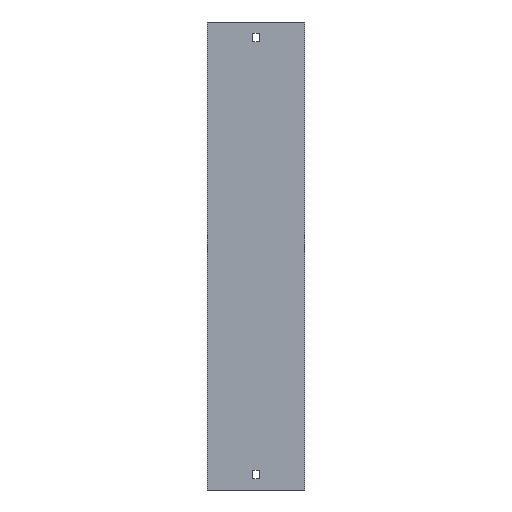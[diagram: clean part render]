
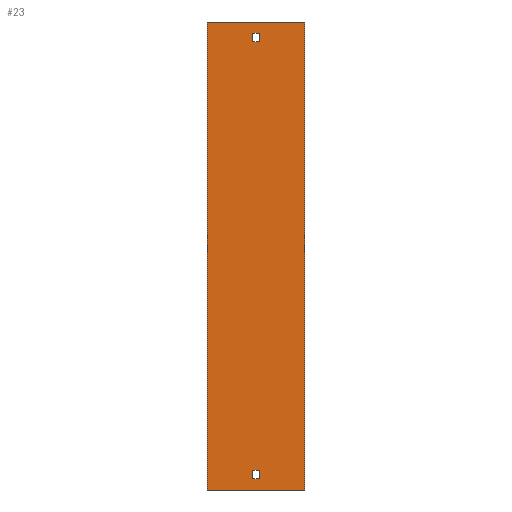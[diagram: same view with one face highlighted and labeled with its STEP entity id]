
A CAD part, front view. The second image highlights one B-rep face of the part: STEP entity #23.
In plain terms, the highlighted planar face has unit normal (0, -1, 0).
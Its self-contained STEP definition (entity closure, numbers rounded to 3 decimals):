
#23 = ADVANCED_FACE ( 'NONE', ( #829, #915, #1016 ), #74, .F. ) ;
#26 = VECTOR ( 'NONE', #755, 1000. ) ;
#48 = VECTOR ( 'NONE', #626, 1000. ) ;
#50 = VECTOR ( 'NONE', #726, 1000. ) ;
#74 = PLANE ( 'NONE',  #1024 ) ;
#86 = ORIENTED_EDGE ( 'NONE', *, *, #874, .F. ) ;
#91 = ORIENTED_EDGE ( 'NONE', *, *, #492, .F. ) ;
#93 = LINE ( 'NONE', #260, #445 ) ;
#99 = DIRECTION ( 'NONE',  ( 1., 0., 0. ) ) ;
#101 = ORIENTED_EDGE ( 'NONE', *, *, #318, .F. ) ;
#113 = CARTESIAN_POINT ( 'NONE',  ( -52., 0., 250. ) ) ;
#129 = CARTESIAN_POINT ( 'NONE',  ( 3.25, 0., 229. ) ) ;
#143 = VECTOR ( 'NONE', #712, 1000. ) ;
#145 = ORIENTED_EDGE ( 'NONE', *, *, #369, .F. ) ;
#156 = CARTESIAN_POINT ( 'NONE',  ( 52., 0., 250. ) ) ;
#163 = CARTESIAN_POINT ( 'NONE',  ( -52., 0., -250. ) ) ;
#186 = LINE ( 'NONE', #514, #395 ) ;
#192 = LINE ( 'NONE', #770, #538 ) ;
#213 = VERTEX_POINT ( 'NONE', #982 ) ;
#222 = LINE ( 'NONE', #1002, #935 ) ;
#246 = VECTOR ( 'NONE', #436, 1000. ) ;
#254 = VERTEX_POINT ( 'NONE', #725 ) ;
#260 = CARTESIAN_POINT ( 'NONE',  ( 3.25, 0., 238. ) ) ;
#262 = CARTESIAN_POINT ( 'NONE',  ( -3.25, 0., -229. ) ) ;
#270 = VERTEX_POINT ( 'NONE', #129 ) ;
#277 = CARTESIAN_POINT ( 'NONE',  ( -3.25, 0., 238. ) ) ;
#318 = EDGE_CURVE ( 'NONE', #1113, #1114, #1058, .T. ) ;
#322 = ORIENTED_EDGE ( 'NONE', *, *, #441, .T. ) ;
#325 = CARTESIAN_POINT ( 'NONE',  ( -52., 0., -250. ) ) ;
#337 = LINE ( 'NONE', #865, #246 ) ;
#343 = CARTESIAN_POINT ( 'NONE',  ( 52., 0., 250. ) ) ;
#352 = CARTESIAN_POINT ( 'NONE',  ( 3.25, 0., -238. ) ) ;
#369 = EDGE_CURVE ( 'NONE', #989, #1113, #490, .T. ) ;
#380 = CARTESIAN_POINT ( 'NONE',  ( 3.25, 0., 238. ) ) ;
#391 = LINE ( 'NONE', #471, #906 ) ;
#395 = VECTOR ( 'NONE', #99, 1000. ) ;
#400 = DIRECTION ( 'NONE',  ( 0., 0., 1. ) ) ;
#401 = CARTESIAN_POINT ( 'NONE',  ( -3.25, 0., 229. ) ) ;
#404 = EDGE_CURVE ( 'NONE', #254, #751, #222, .T. ) ;
#407 = ORIENTED_EDGE ( 'NONE', *, *, #596, .T. ) ;
#420 = VERTEX_POINT ( 'NONE', #156 ) ;
#431 = ORIENTED_EDGE ( 'NONE', *, *, #520, .T. ) ;
#436 = DIRECTION ( 'NONE',  ( 0., 0., -1. ) ) ;
#441 = EDGE_CURVE ( 'NONE', #493, #213, #1094, .T. ) ;
#445 = VECTOR ( 'NONE', #501, 1000. ) ;
#471 = CARTESIAN_POINT ( 'NONE',  ( -3.25, 0., -238. ) ) ;
#487 = CARTESIAN_POINT ( 'NONE',  ( -3.25, 0., 238. ) ) ;
#490 = LINE ( 'NONE', #569, #737 ) ;
#492 = EDGE_CURVE ( 'NONE', #270, #989, #93, .T. ) ;
#493 = VERTEX_POINT ( 'NONE', #163 ) ;
#496 = CARTESIAN_POINT ( 'NONE',  ( -52., 0., 250. ) ) ;
#501 = DIRECTION ( 'NONE',  ( 0., 0., 1. ) ) ;
#514 = CARTESIAN_POINT ( 'NONE',  ( -3.25, 0., 229. ) ) ;
#520 = EDGE_CURVE ( 'NONE', #996, #493, #337, .T. ) ;
#530 = VERTEX_POINT ( 'NONE', #352 ) ;
#538 = VECTOR ( 'NONE', #857, 1000. ) ;
#569 = CARTESIAN_POINT ( 'NONE',  ( -3.25, 0., 238. ) ) ;
#581 = EDGE_CURVE ( 'NONE', #420, #213, #1124, .T. ) ;
#596 = EDGE_CURVE ( 'NONE', #972, #530, #847, .T. ) ;
#605 = DIRECTION ( 'NONE',  ( 0., 0., -1. ) ) ;
#626 = DIRECTION ( 'NONE',  ( 0., 0., -1. ) ) ;
#641 = LINE ( 'NONE', #885, #50 ) ;
#710 = EDGE_LOOP ( 'NONE', ( #322, #933, #86, #431 ) ) ;
#712 = DIRECTION ( 'NONE',  ( 0., 0., -1. ) ) ;
#725 = CARTESIAN_POINT ( 'NONE',  ( -3.25, 0., -238. ) ) ;
#726 = DIRECTION ( 'NONE',  ( 1., 0., 0. ) ) ;
#727 = ORIENTED_EDGE ( 'NONE', *, *, #905, .T. ) ;
#737 = VECTOR ( 'NONE', #923, 1000. ) ;
#751 = VERTEX_POINT ( 'NONE', #262 ) ;
#755 = DIRECTION ( 'NONE',  ( 1., 0., 0. ) ) ;
#756 = EDGE_LOOP ( 'NONE', ( #911, #1004, #407, #727 ) ) ;
#763 = DIRECTION ( 'NONE',  ( 0., 1., 0. ) ) ;
#770 = CARTESIAN_POINT ( 'NONE',  ( -52., 0., 250. ) ) ;
#807 = EDGE_CURVE ( 'NONE', #1114, #270, #186, .T. ) ;
#829 = FACE_OUTER_BOUND ( 'NONE', #710, .T. ) ;
#847 = LINE ( 'NONE', #1069, #143 ) ;
#857 = DIRECTION ( 'NONE',  ( 1., 0., 0. ) ) ;
#865 = CARTESIAN_POINT ( 'NONE',  ( -52., 0., 250. ) ) ;
#874 = EDGE_CURVE ( 'NONE', #996, #420, #192, .T. ) ;
#885 = CARTESIAN_POINT ( 'NONE',  ( -3.25, 0., -229. ) ) ;
#892 = CARTESIAN_POINT ( 'NONE',  ( 3.25, 0., -229. ) ) ;
#905 = EDGE_CURVE ( 'NONE', #530, #254, #391, .T. ) ;
#906 = VECTOR ( 'NONE', #978, 1000. ) ;
#911 = ORIENTED_EDGE ( 'NONE', *, *, #404, .T. ) ;
#912 = EDGE_CURVE ( 'NONE', #751, #972, #641, .T. ) ;
#915 = FACE_BOUND ( 'NONE', #1097, .T. ) ;
#916 = ORIENTED_EDGE ( 'NONE', *, *, #807, .F. ) ;
#923 = DIRECTION ( 'NONE',  ( -1., 0., 0. ) ) ;
#933 = ORIENTED_EDGE ( 'NONE', *, *, #581, .F. ) ;
#935 = VECTOR ( 'NONE', #400, 1000. ) ;
#972 = VERTEX_POINT ( 'NONE', #892 ) ;
#978 = DIRECTION ( 'NONE',  ( -1., 0., 0. ) ) ;
#982 = CARTESIAN_POINT ( 'NONE',  ( 52., 0., -250. ) ) ;
#989 = VERTEX_POINT ( 'NONE', #380 ) ;
#996 = VERTEX_POINT ( 'NONE', #113 ) ;
#1000 = DIRECTION ( 'NONE',  ( -1., 0., 0. ) ) ;
#1002 = CARTESIAN_POINT ( 'NONE',  ( -3.25, 0., -238. ) ) ;
#1004 = ORIENTED_EDGE ( 'NONE', *, *, #912, .T. ) ;
#1016 = FACE_BOUND ( 'NONE', #756, .T. ) ;
#1024 = AXIS2_PLACEMENT_3D ( 'NONE', #496, #763, #1000 ) ;
#1058 = LINE ( 'NONE', #277, #48 ) ;
#1069 = CARTESIAN_POINT ( 'NONE',  ( 3.25, 0., -238. ) ) ;
#1094 = LINE ( 'NONE', #325, #26 ) ;
#1097 = EDGE_LOOP ( 'NONE', ( #916, #101, #145, #91 ) ) ;
#1113 = VERTEX_POINT ( 'NONE', #487 ) ;
#1114 = VERTEX_POINT ( 'NONE', #401 ) ;
#1121 = VECTOR ( 'NONE', #605, 1000. ) ;
#1124 = LINE ( 'NONE', #343, #1121 ) ;
